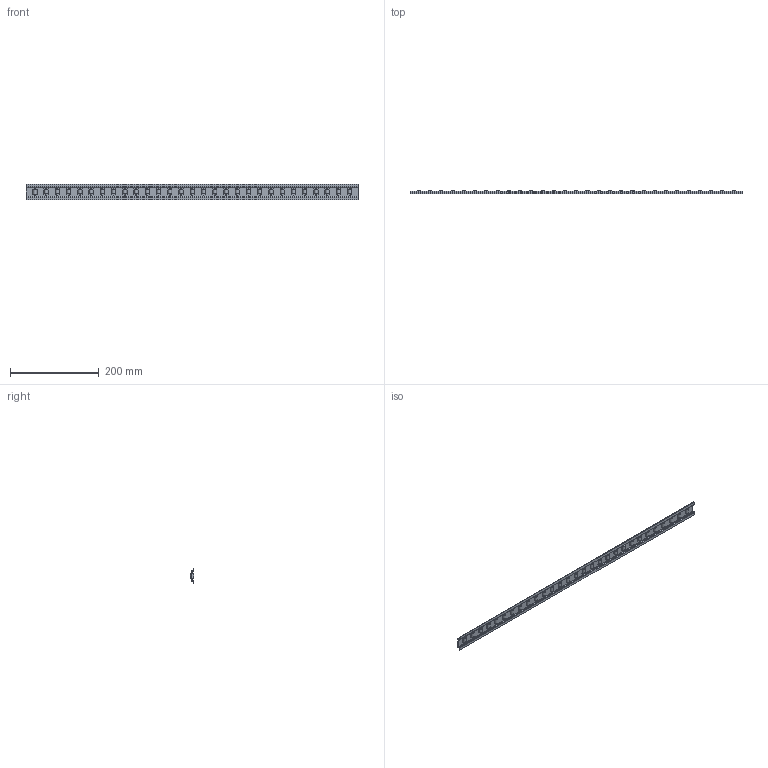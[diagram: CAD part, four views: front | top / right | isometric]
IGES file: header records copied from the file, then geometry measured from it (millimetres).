
Start section: START RECORD GO HERE.
Global section: file name: 88 SCRUL.igs; native system: DASSAULT SYSTEMES CATIA V5 R20 - www.3ds.com; preprocessor: CATIA Version 5 Release 20 ; author: Utente; organization: NB04-ASUS; date: 20200409.080416; units: millimetre
Bounding box: 750 x 8.5 x 35 mm (x, y, z)
Surface area: 71916.6 mm2 (no closed solid volume)
Topology: 0 solids, 0 shells, 428 faces, 2556 edges, 2556 vertices
Faces by surface type: revolution 240, plane 188
